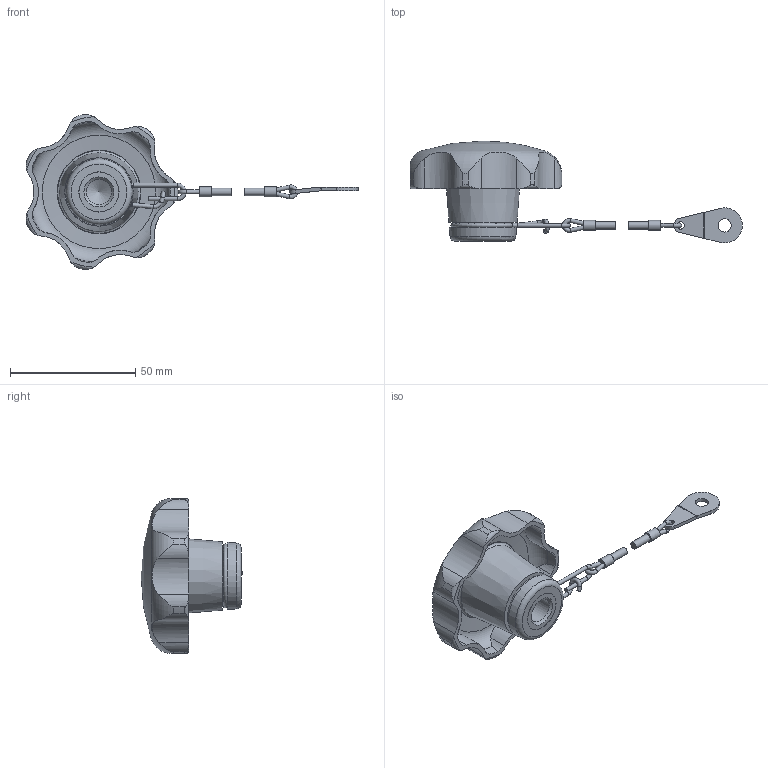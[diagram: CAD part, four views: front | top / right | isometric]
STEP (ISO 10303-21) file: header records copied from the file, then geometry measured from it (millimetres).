
FILE_DESCRIPTION( ( 'STEP AP203' ), '1' );
FILE_NAME( 'C:/Temp/Ganter_Step_05_03_2020/data/2_2/gn_6336_13/gn_6336_13_1/Star knob GN 6336.13-63-M12-H.stp', '2020-03-05T12:10:48', ( 'License CC BY-ND 4.0' ), ( 'CADENAS' ), ' ', 'PARTsolutions', ' ' );
FILE_SCHEMA( ( 'CONFIG_CONTROL_DESIGN' ) );
Length unit declared in the file: millimetre
Products named in the file (3): Star knob GN 6336.13-63-M12-H; _Star knob GN 6336.13-63-M12-H 2; _Star knob GN 111.2-200-14 h1
Assembly tree (2 placements, depth 2):
  Star knob GN 6336.13-63-M12-H
    _Star knob GN 6336.13-63-M12-H 2
    _Star knob GN 111.2-200-14 h1
Bounding box: 132.69 x 40.68 x 61.94 mm (x, y, z)
Volume: 39628.6 mm3; surface area: 14565.7 mm2
Topology: 2 solids, 2 shells, 144 faces, 388 edges, 251 vertices
Faces by surface type: cylinder 75, plane 36, torus 20, cone 12, sphere 1
Full cylindrical faces by diameter (mm): 1.6 x10, 3 x3, 4 x2, 5.3 x1, 10.106 x1, 15.99 x1, 16.05 x1, 22.3 x1
Entity records: 5308 total; most frequent: CARTESIAN_POINT 1844, DIRECTION 702, ORIENTED_EDGE 658, EDGE_CURVE 329, AXIS2_PLACEMENT_3D 303, VERTEX_POINT 239, EDGE_LOOP 200, FACE_OUTER_BOUND 176
